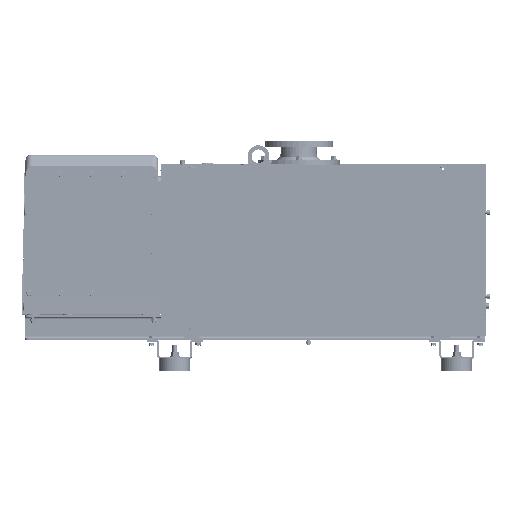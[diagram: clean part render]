
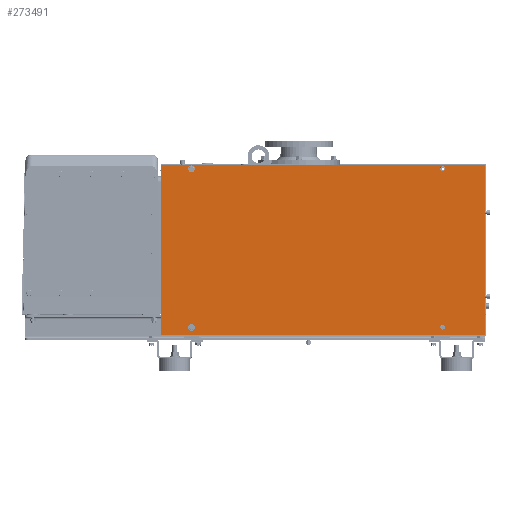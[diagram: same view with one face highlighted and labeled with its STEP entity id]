
A CAD part, top view. The second image highlights one B-rep face of the part: STEP entity #273491.
In plain terms, the highlighted planar face has unit normal (0, 0, 1).
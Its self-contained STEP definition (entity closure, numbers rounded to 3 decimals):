
#273182=DIRECTION('',(1.,0.,0.));
#273183=VECTOR('',#273182,1047.);
#273184=CARTESIAN_POINT('',(2.,-368.,382.498));
#273185=LINE('',#273184,#273183);
#273186=DIRECTION('',(0.,-1.,0.));
#273187=VECTOR('',#273186,550.);
#273188=CARTESIAN_POINT('',(2.,182.,382.498));
#273189=LINE('',#273188,#273187);
#273190=DIRECTION('',(-1.,0.,0.));
#273191=VECTOR('',#273190,1047.);
#273192=CARTESIAN_POINT('',(1049.,182.,382.498));
#273193=LINE('',#273192,#273191);
#273194=DIRECTION('',(0.,1.,0.));
#273195=VECTOR('',#273194,550.);
#273196=CARTESIAN_POINT('',(1049.,-368.,382.498));
#273197=LINE('',#273196,#273195);
#273198=CARTESIAN_POINT('',(912.,169.,382.498));
#273199=DIRECTION('',(0.,0.,1.));
#273200=DIRECTION('',(1.,0.,0.));
#273201=AXIS2_PLACEMENT_3D('',#273198,#273199,#273200);
#273203=CARTESIAN_POINT('',(912.,169.,382.498));
#273204=DIRECTION('',(0.,0.,1.));
#273205=DIRECTION('',(-1.,0.,0.));
#273206=AXIS2_PLACEMENT_3D('',#273203,#273204,#273205);
#273208=CARTESIAN_POINT('',(102.,169.,382.498));
#273209=DIRECTION('',(0.,0.,1.));
#273210=DIRECTION('',(1.,0.,0.));
#273211=AXIS2_PLACEMENT_3D('',#273208,#273209,#273210);
#273213=CARTESIAN_POINT('',(102.,169.,382.498));
#273214=DIRECTION('',(0.,0.,1.));
#273215=DIRECTION('',(-1.,0.,0.));
#273216=AXIS2_PLACEMENT_3D('',#273213,#273214,#273215);
#273218=CARTESIAN_POINT('',(102.,-343.,382.498));
#273219=DIRECTION('',(0.,0.,1.));
#273220=DIRECTION('',(1.,0.,0.));
#273221=AXIS2_PLACEMENT_3D('',#273218,#273219,#273220);
#273223=CARTESIAN_POINT('',(102.,-343.,382.498));
#273224=DIRECTION('',(0.,0.,1.));
#273225=DIRECTION('',(-1.,0.,0.));
#273226=AXIS2_PLACEMENT_3D('',#273223,#273224,#273225);
#273228=CARTESIAN_POINT('',(912.,-343.,382.498));
#273229=DIRECTION('',(0.,0.,1.));
#273230=DIRECTION('',(1.,0.,0.));
#273231=AXIS2_PLACEMENT_3D('',#273228,#273229,#273230);
#273233=CARTESIAN_POINT('',(912.,-343.,382.498));
#273234=DIRECTION('',(0.,0.,1.));
#273235=DIRECTION('',(-1.,0.,0.));
#273236=AXIS2_PLACEMENT_3D('',#273233,#273234,#273235);
#273318=CARTESIAN_POINT('',(2.,-368.,382.498));
#273319=CARTESIAN_POINT('',(1049.,-368.,382.498));
#273320=VERTEX_POINT('',#273318);
#273321=VERTEX_POINT('',#273319);
#273322=CARTESIAN_POINT('',(1049.,182.,382.498));
#273323=VERTEX_POINT('',#273322);
#273324=CARTESIAN_POINT('',(2.,182.,382.498));
#273325=VERTEX_POINT('',#273324);
#273342=CARTESIAN_POINT('',(918.,169.,382.498));
#273343=CARTESIAN_POINT('',(906.,169.,382.498));
#273344=VERTEX_POINT('',#273342);
#273345=VERTEX_POINT('',#273343);
#273346=CARTESIAN_POINT('',(108.,169.,382.498));
#273347=CARTESIAN_POINT('',(96.,169.,382.498));
#273348=VERTEX_POINT('',#273346);
#273349=VERTEX_POINT('',#273347);
#273350=CARTESIAN_POINT('',(108.,-343.,382.498));
#273351=CARTESIAN_POINT('',(96.,-343.,382.498));
#273352=VERTEX_POINT('',#273350);
#273353=VERTEX_POINT('',#273351);
#273354=CARTESIAN_POINT('',(918.,-343.,382.498));
#273355=CARTESIAN_POINT('',(906.,-343.,382.498));
#273356=VERTEX_POINT('',#273354);
#273357=VERTEX_POINT('',#273355);
#273456=CARTESIAN_POINT('',(2.,-368.,382.498));
#273457=DIRECTION('',(0.,0.,1.));
#273458=DIRECTION('',(1.,0.,0.));
#273459=AXIS2_PLACEMENT_3D('',#273456,#273457,#273458);
#273460=PLANE('',#273459);
#273461=ORIENTED_EDGE('',*,*,#273408,.F.);
#273462=ORIENTED_EDGE('',*,*,#273423,.F.);
#273463=ORIENTED_EDGE('',*,*,#273437,.F.);
#273464=ORIENTED_EDGE('',*,*,#273450,.F.);
#273465=EDGE_LOOP('',(#273461,#273462,#273463,#273464));
#273466=FACE_OUTER_BOUND('',#273465,.F.);
#273468=ORIENTED_EDGE('',*,*,#273467,.T.);
#273470=ORIENTED_EDGE('',*,*,#273469,.T.);
#273471=EDGE_LOOP('',(#273468,#273470));
#273472=FACE_BOUND('',#273471,.F.);
#273474=ORIENTED_EDGE('',*,*,#273473,.T.);
#273476=ORIENTED_EDGE('',*,*,#273475,.T.);
#273477=EDGE_LOOP('',(#273474,#273476));
#273478=FACE_BOUND('',#273477,.F.);
#273480=ORIENTED_EDGE('',*,*,#273479,.T.);
#273482=ORIENTED_EDGE('',*,*,#273481,.T.);
#273483=EDGE_LOOP('',(#273480,#273482));
#273484=FACE_BOUND('',#273483,.F.);
#273486=ORIENTED_EDGE('',*,*,#273485,.T.);
#273488=ORIENTED_EDGE('',*,*,#273487,.T.);
#273489=EDGE_LOOP('',(#273486,#273488));
#273490=FACE_BOUND('',#273489,.F.);
#273491=ADVANCED_FACE('',(#273466,#273472,#273478,#273484,#273490),#273460,.T.);
#273202=CIRCLE('',#273201,6.);
#273207=CIRCLE('',#273206,6.);
#273212=CIRCLE('',#273211,6.);
#273217=CIRCLE('',#273216,6.);
#273222=CIRCLE('',#273221,6.);
#273227=CIRCLE('',#273226,6.);
#273232=CIRCLE('',#273231,6.);
#273237=CIRCLE('',#273236,6.);
#273408=EDGE_CURVE('',#273320,#273321,#273185,.T.);
#273423=EDGE_CURVE('',#273325,#273320,#273189,.T.);
#273437=EDGE_CURVE('',#273323,#273325,#273193,.T.);
#273450=EDGE_CURVE('',#273321,#273323,#273197,.T.);
#273467=EDGE_CURVE('',#273344,#273345,#273202,.T.);
#273469=EDGE_CURVE('',#273345,#273344,#273207,.T.);
#273473=EDGE_CURVE('',#273348,#273349,#273212,.T.);
#273475=EDGE_CURVE('',#273349,#273348,#273217,.T.);
#273479=EDGE_CURVE('',#273352,#273353,#273222,.T.);
#273481=EDGE_CURVE('',#273353,#273352,#273227,.T.);
#273485=EDGE_CURVE('',#273356,#273357,#273232,.T.);
#273487=EDGE_CURVE('',#273357,#273356,#273237,.T.);
